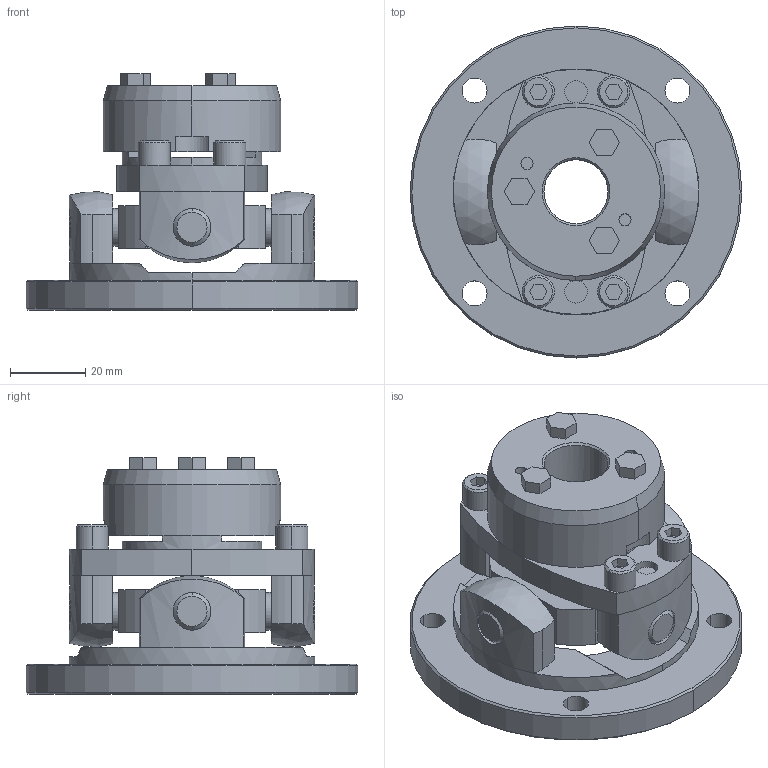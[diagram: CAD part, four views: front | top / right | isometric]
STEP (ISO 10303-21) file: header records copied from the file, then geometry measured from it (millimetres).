
FILE_DESCRIPTION((''),'2;1');
FILE_NAME('UCNF-65T7-17.stp','2011-09-17T16:14:11',(''),(''),'AutoCAD STEP 2000i','AutoCAD 2000i',', , ');
FILE_SCHEMA(('CONFIG_CONTROL_DESIGN'));
Length unit declared in the file: millimetre
Products named in the file (7): UCNF-65T7-17; 忣兜1; UCN65T7-T017; UCNF-6502; UCN65T7-T015-1; UCN65T7-T015; UCN65-SEN
Assembly tree (6 placements, depth 2):
  UCNF-65T7-17
    忣兜1
    UCN65T7-T017
    UCNF-6502
    UCN65T7-T015-1
    UCN65T7-T015
    UCN65-SEN
Bounding box: 88 x 88 x 62.7 mm (x, y, z)
Volume: 117562.4 mm3; surface area: 37943.6 mm2
Topology: 1 solids, 1 shells, 283 faces, 704 edges, 456 vertices
Faces by surface type: plane 131, cylinder 110, cone 38, sphere 4
Entity records: 9063 total; most frequent: CARTESIAN_POINT 1838, DIRECTION 1578, ORIENTED_EDGE 1408, EDGE_CURVE 704, AXIS2_PLACEMENT_3D 600, VERTEX_POINT 456, VECTOR 378, LINE 378
